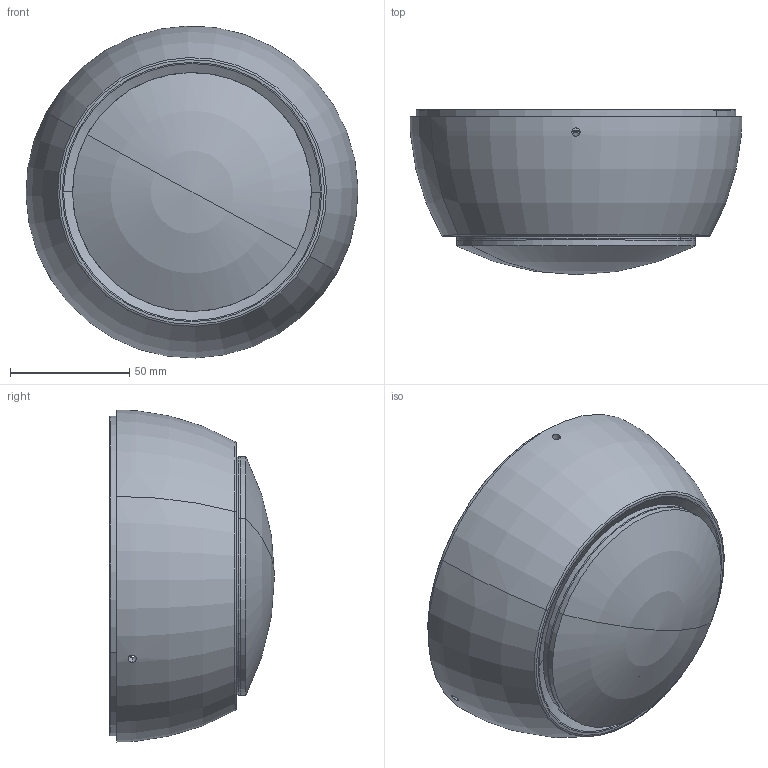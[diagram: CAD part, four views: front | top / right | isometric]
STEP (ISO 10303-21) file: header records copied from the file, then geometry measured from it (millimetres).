
FILE_DESCRIPTION(('CATIA V5 STEP Exchange'),'2;1');
FILE_NAME('G:\GaaPro\luo\5.待开发项目\1.壁灯\GW-6100\GW-6100.stp','2026-07-03T03:33:49+00:00',('none'),('none'),'CATIA Version 5-6 Release 2018','CATIA V5 STEP AP203','none');
FILE_SCHEMA(('CONFIG_CONTROL_DESIGN'));
Length unit declared in the file: millimetre
Products named in the file (1): 装配
Assembly tree (16 placements, depth 2):
  装配
    #57
    #1981
    #2722
    #3596
    #4206  x2
    #4229
    #12627
    #12650
    #12673
    #12696  x3
    #12745
    #12768
    #12791
Bounding box: 138.96 x 69.04 x 138.96 mm (x, y, z)
Volume: 274773.8 mm3; surface area: 139555.5 mm2
Topology: 5 solids, 5 shells, 244 faces, 625 edges, 404 vertices
Faces by surface type: cylinder 175, plane 32, sphere 13, cone 12, torus 6, revolution 4, bspline 2
Entity records: 12765 total; most frequent: CARTESIAN_POINT 7501, ORIENTED_EDGE 1230, DIRECTION 681, EDGE_CURVE 615, VERTEX_POINT 404, AXIS2_PLACEMENT_3D 373, B_SPLINE_CURVE_WITH_KNOTS 371, EDGE_LOOP 289
